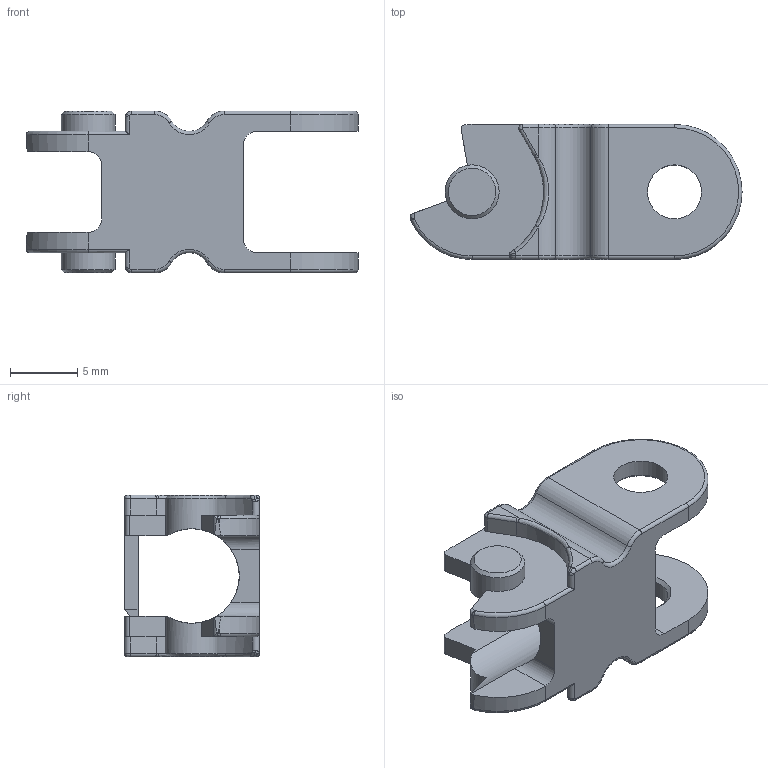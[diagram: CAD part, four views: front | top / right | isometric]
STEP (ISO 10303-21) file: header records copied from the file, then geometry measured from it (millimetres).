
FILE_DESCRIPTION((''),'2;1');
FILE_NAME('C:\Uebbing\PARAMETERKETTEN\KOLIBRI\Kol_10_012_4\Kol_10_012_4 Lasche.stp','2011-11-02T10:49:49',('Uebbing'),(''),'Autodesk Inventor 10','Autodesk Inventor 10','');
FILE_SCHEMA(('AUTOMOTIVE_DESIGN { 1 0 10303 214 1 1 1 1 }'));
Length unit declared in the file: millimetre
Products named in the file (1): Kol_10_012_4 Lasche
Bounding box: 24.6 x 10 x 12 mm (x, y, z)
Volume: 894.9 mm3; surface area: 1311.5 mm2
Topology: 1 solids, 1 shells, 125 faces, 321 edges, 190 vertices
Faces by surface type: cylinder 50, plane 35, torus 20, bspline 16, cone 4
Full cylindrical faces by diameter (mm): 4 x4
Entity records: 5056 total; most frequent: CARTESIAN_POINT 2056, DIRECTION 652, ORIENTED_EDGE 612, EDGE_CURVE 306, AXIS2_PLACEMENT_3D 264, VERTEX_POINT 189, EDGE_LOOP 137, CIRCLE 136
